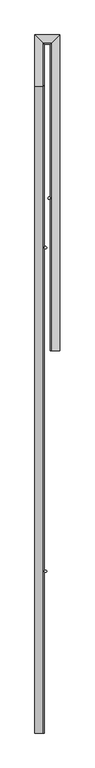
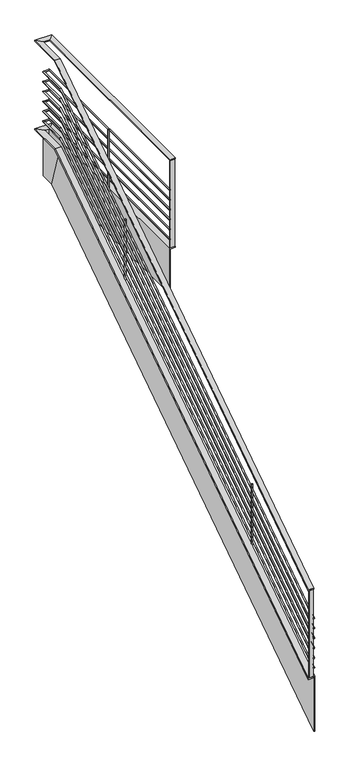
"""IFC4 building model written with IfcOpenShell, lengths in millimetres: railing geometry, Pletina y tubos pancha cubre forjado."""

import ifcopenshell
import ifcopenshell.guid

model = None  # the IFC model being written
_history = None  # IfcOwnerHistory: only IFC2X3 demands one
_inside = {}  # id of a spatial element -> (the spatial element, [elements in it])
_under = {}  # id of a project, library or spatial element -> (it, [spatial elements below it])
_declared = {}  # id of a project -> (the project, [libraries it declares])
_typed = {}  # id of a type object -> (the type object, [elements of that type])
_made_of = {}  # id of a material, layer set ... -> (it, [elements and type objects made of it])


def new_model(schema):
    """Start an empty IFC model of exactly this schema.

    Asked for "IFC4X3", IfcOpenShell would pick the latest addendum, in which some entities
    have other attributes; the version numbers below select the first issue.
    IFC2X3 requires an IfcOwnerHistory on every rooted entity: one is made here for all.
    """
    global model, _history
    if schema == "IFC4X3":
        model = ifcopenshell.file(schema_version=(4, 3, 0, 0))
    else:
        model = ifcopenshell.file(schema=schema)
    _inside.clear()
    _under.clear()
    _declared.clear()
    _typed.clear()
    _made_of.clear()
    _history = None
    if model.schema == "IFC2X3":
        org = make("IfcOrganization", Name="unknown")
        user = make(
            "IfcPersonAndOrganization",
            ThePerson=make("IfcPerson", FamilyName="unknown"),
            TheOrganization=org,
        )
        app = make(
            "IfcApplication",
            ApplicationDeveloper=org,
            Version="unknown",
            ApplicationFullName="unknown",
            ApplicationIdentifier="unknown",
        )
        _history = make(
            "IfcOwnerHistory",
            OwningUser=user,
            OwningApplication=app,
            ChangeAction="ADDED",
            CreationDate=0,
        )
    return model


def make(cls, **values):
    """One entity of the class cls with the attributes given. An attribute that is None is left unset."""
    return model.create_entity(
        cls, **{name: value for name, value in values.items() if value is not None}
    )


def rooted(cls, **values):
    """An entity with a GlobalId (a new one), such as an element, a storey or a relation."""
    return make(cls, GlobalId=ifcopenshell.guid.new(), OwnerHistory=_history, **values)


def si_unit(unit_type, name, prefix=None):
    """IfcSIUnit, for example si_unit("LENGTHUNIT", "METRE", prefix="MILLI")."""
    return make("IfcSIUnit", UnitType=unit_type, Prefix=prefix, Name=name)


def assignment(units):
    """IfcUnitAssignment: the units of a project."""
    return None if units is None else make("IfcUnitAssignment", Units=units)


def point(xyz):
    """IfcCartesianPoint."""
    return None if xyz is None else make("IfcCartesianPoint", Coordinates=xyz)


def direction(xyz):
    """IfcDirection."""
    return None if xyz is None else make("IfcDirection", DirectionRatios=xyz)


def frame(location, z_axis=None, x_axis=None):
    """IfcAxis2Placement3D, a coordinate frame: its origin and axes. An axis left out is left unset."""
    return make(
        "IfcAxis2Placement3D",
        Location=point(location),
        Axis=direction(z_axis),
        RefDirection=direction(x_axis),
    )


def frame_2d(location, x_axis=None):
    """IfcAxis2Placement2D, a coordinate frame in the plane: its origin and x axis."""
    return make(
        "IfcAxis2Placement2D", Location=point(location), RefDirection=direction(x_axis)
    )


def origin():
    """The frame at (0, 0, 0) with its axes left unset."""
    return frame((0.0, 0.0, 0.0))


def place(relative_to, where):
    """IfcLocalPlacement: puts the frame where relative to a parent placement (None: the world)."""
    return make(
        "IfcLocalPlacement", PlacementRelTo=relative_to, RelativePlacement=where
    )


def context(
    kind, dimensions, precision=None, world=None, true_north=None, identifier=None
):
    """IfcGeometricRepresentationContext, for example the 3D "Model" context."""
    return make(
        "IfcGeometricRepresentationContext",
        ContextIdentifier=identifier,
        ContextType=kind,
        CoordinateSpaceDimension=dimensions,
        Precision=precision,
        WorldCoordinateSystem=world,
        TrueNorth=true_north,
    )


def project(units=None, contexts=None):
    """IfcProject with its units and contexts."""
    return rooted(
        "IfcProject",
        Name="project",
        RepresentationContexts=contexts,
        UnitsInContext=assignment(units),
    )


def spatial(cls, under=None, at=None, **own):
    """A site, building, storey or space (cls), placed at a placement, below another one or the project."""
    s = rooted(cls, ObjectPlacement=at, **own)
    if under is not None:
        _under.setdefault(under.id(), (under, []))[1].append(s)
    return s


def polyline(points):
    """IfcPolyline through the points."""
    return make("IfcPolyline", Points=[point(p) for p in points])


def circle_curve(where, radius):
    """IfcCircle in the frame where."""
    return make("IfcCircle", Position=where, Radius=radius)


def ellipse_curve(where, semi_axis1, semi_axis2):
    """IfcEllipse in the frame where."""
    return make(
        "IfcEllipse", Position=where, SemiAxis1=semi_axis1, SemiAxis2=semi_axis2
    )


def trimmed(basis, trim1, trim2, sense, master):
    """IfcTrimmedCurve: the piece of a basis curve between two trims."""
    return make(
        "IfcTrimmedCurve",
        BasisCurve=basis,
        Trim1=trim1,
        Trim2=trim2,
        SenseAgreement=sense,
        MasterRepresentation=master,
    )


def segment(curve, same_sense, transition):
    """IfcCompositeCurveSegment."""
    return make(
        "IfcCompositeCurveSegment",
        Transition=transition,
        SameSense=same_sense,
        ParentCurve=curve,
    )


def composite_curve(segments, self_intersect=None):
    """IfcCompositeCurve: segments joined end to end."""
    return make("IfcCompositeCurve", Segments=segments, SelfIntersect=self_intersect)


def outline(outer, holes=None, kind="AREA"):
    """IfcArbitraryClosedProfileDef: a profile drawn as a closed curve; with holes, ...WithVoids."""
    if holes is None:
        return make("IfcArbitraryClosedProfileDef", ProfileType=kind, OuterCurve=outer)
    return make(
        "IfcArbitraryProfileDefWithVoids",
        ProfileType=kind,
        OuterCurve=outer,
        InnerCurves=holes,
    )


def extrude(swept, where, along, depth):
    """IfcExtrudedAreaSolid: the profile swept, set in the frame where, extruded along a direction by depth."""
    return make(
        "IfcExtrudedAreaSolid",
        SweptArea=swept,
        Position=where,
        ExtrudedDirection=direction(along),
        Depth=depth,
    )


def faces_of(points, faces, orient=None, outer=None):
    """IfcFace entities. A face is a list of loops; a loop is a list of indices into points, from 0.

    orient and outer hold one flag for each loop. By default every Orientation is true, the
    first loop of a face is its IfcFaceOuterBound and the others are IfcFaceBound.
    """
    made = []
    for i, loops in enumerate(faces):
        bounds = []
        for j, loop in enumerate(loops):
            is_outer = j == 0 if outer is None else outer[i][j]
            bounds.append(
                make(
                    "IfcFaceOuterBound" if is_outer else "IfcFaceBound",
                    Bound=make("IfcPolyLoop", Polygon=[points[k] for k in loop]),
                    Orientation=True if orient is None else orient[i][j],
                )
            )
        made.append(make("IfcFace", Bounds=bounds))
    return made


def faceted_brep(points, faces, orient=None, outer=None, voids=None):
    """IfcFacetedBrep: a solid bounded by flat faces; with voids (closed shells), ...WithVoids."""
    shared = [point(p) for p in points]
    hull = make("IfcClosedShell", CfsFaces=faces_of(shared, faces, orient, outer))
    if voids is None:
        return make("IfcFacetedBrep", Outer=hull)
    return make(
        "IfcFacetedBrepWithVoids",
        Outer=hull,
        Voids=[
            make(cls, CfsFaces=faces_of(shared, fs, o, b)) for cls, fs, o, b in voids
        ],
    )


def shape(context_of_items, identifier, shape_type, items):
    """IfcShapeRepresentation: the items that make up one representation, for example the "Body"."""
    return make(
        "IfcShapeRepresentation",
        ContextOfItems=context_of_items,
        RepresentationIdentifier=identifier,
        RepresentationType=shape_type,
        Items=items,
    )


def source(mapping_origin, context_of_items, identifier, shape_type, items):
    """IfcRepresentationMap: a shape defined once, which mapped items show again and again."""
    return make(
        "IfcRepresentationMap",
        MappingOrigin=mapping_origin,
        MappedRepresentation=shape(context_of_items, identifier, shape_type, items),
    )


def transform(
    local_origin,
    x_axis=None,
    y_axis=None,
    z_axis=None,
    scale=None,
    scale2=None,
    scale3=None,
    uniform=True,
):
    """IfcCartesianTransformationOperator3D, or its non-uniform kind. x_axis, y_axis, z_axis: its Axis1, 2, 3."""
    if uniform:
        return make(
            "IfcCartesianTransformationOperator3D",
            Axis1=direction(x_axis),
            Axis2=direction(y_axis),
            LocalOrigin=point(local_origin),
            Scale=scale,
            Axis3=direction(z_axis),
        )
    return make(
        "IfcCartesianTransformationOperator3DnonUniform",
        Axis1=direction(x_axis),
        Axis2=direction(y_axis),
        LocalOrigin=point(local_origin),
        Scale=scale,
        Axis3=direction(z_axis),
        Scale2=scale2,
        Scale3=scale3,
    )


def mapped(mapping_source, mapping_target):
    """IfcMappedItem: shows the shape of a source again, moved by a transform."""
    return make(
        "IfcMappedItem", MappingSource=mapping_source, MappingTarget=mapping_target
    )


def made_of(thing, what):
    """Note that an element or type object is made of a material, layer set ...; save() writes the relation."""
    if what is not None:
        _made_of.setdefault(what.id(), (what, []))[1].append(thing)
    return thing


def element(
    cls,
    number,
    at=None,
    inside=None,
    cuts=None,
    type_object=None,
    material=None,
    context=None,
    identifier="Body",
    shape_type=None,
    held_by="IfcProductDefinitionShape",
    body=None,
    shapes=None,
    **own,
):
    """One element of the class cls, such as IfcWall. Its Tag is "e" and its number.

    at: its placement. inside: the storey or other place that contains it. cuts: it is an
    opening in that element (IfcRelVoidsElement). A single representation is given by context,
    identifier, shape_type and body (its items); several are given by shapes. held_by: the class
    of the entity that holds the representations. save() writes the other relations.
    """
    e = rooted(cls, Tag="e%d" % number, ObjectPlacement=at, **own)
    if body is not None:
        shapes = [shape(context, identifier, shape_type, body)]
    if shapes is not None:
        e.Representation = make(held_by, Representations=shapes)
    if inside is not None:
        _inside.setdefault(inside.id(), (inside, []))[1].append(e)
    if cuts is not None:
        rooted(
            "IfcRelVoidsElement", RelatingBuildingElement=cuts, RelatedOpeningElement=e
        )
    if type_object is not None:
        _typed.setdefault(type_object.id(), (type_object, []))[1].append(e)
    return made_of(e, material)


def aggregate(whole, parts):
    """IfcRelAggregates: a whole, such as a stair, and the parts it consists of."""
    return rooted("IfcRelAggregates", RelatingObject=whole, RelatedObjects=parts)


def save(model, path):
    """Write the relations noted so far, then the file.

    IfcRelAggregates (storeys below a building ...), IfcRelContainedInSpatialStructure (elements
    in a storey), IfcRelDefinesByType, IfcRelAssociatesMaterial and IfcRelDeclares: one each for
    every whole, place, type object, material and project.
    """
    for whole, parts in _under.values():
        aggregate(whole, parts)
    for where, things in _inside.values():
        rooted(
            "IfcRelContainedInSpatialStructure",
            RelatedElements=things,
            RelatingStructure=where,
        )
    for kind, things in _typed.values():
        rooted("IfcRelDefinesByType", RelatedObjects=things, RelatingType=kind)
    for what, things in _made_of.values():
        rooted("IfcRelAssociatesMaterial", RelatedObjects=things, RelatingMaterial=what)
    for by, libraries in _declared.values():
        rooted("IfcRelDeclares", RelatingContext=by, RelatedDefinitions=libraries)
    model.write(path)


def plane_surface(at):
    """IfcPlane: the flat surface through the origin of the frame at, square to its z axis."""
    return make("IfcPlane", Position=at)


def cylinder_surface(at, radius):
    """IfcCylindricalSurface: all points at the distance radius from the z axis of the frame at."""
    return make("IfcCylindricalSurface", Position=at, Radius=radius)


def advanced_brep(points, edges, surfaces, faces):
    """IfcAdvancedBrep: a solid bounded by faces that lie on surfaces and meet in shared edges.

    An edge is (start, end): straight between two places in points (the first is 0);
    or (start, end, curve); or (start, end, curve, False) where it runs against its curve.
    A face is (place in surfaces, loops), or (place, loops, False) where it looks against
    its surface's normal. A loop lists edges by number (the first is 1), with a minus sign
    where the edge is run from its end to its start. The first loop is the outer one.
    """
    corners = [point(p) for p in points]
    vertices = [make("IfcVertexPoint", VertexGeometry=c) for c in corners]
    made = []
    for start, end, *more in edges:
        made.append(
            make(
                "IfcEdgeCurve",
                EdgeStart=vertices[start],
                EdgeEnd=vertices[end],
                EdgeGeometry=more[0] if more else make("IfcPolyline", Points=[corners[start], corners[end]]),
                SameSense=more[1] if len(more) > 1 else True,
            )
        )
    hull = []
    for where, loops, *sense in faces:
        bounds = []
        for j, loop in enumerate(loops):
            ring = [make("IfcOrientedEdge", EdgeElement=made[abs(k) - 1], Orientation=k > 0) for k in loop]
            bounds.append(
                make(
                    "IfcFaceOuterBound" if j == 0 else "IfcFaceBound",
                    Bound=make("IfcEdgeLoop", EdgeList=ring),
                    Orientation=True,
                )
            )
        hull.append(make("IfcAdvancedFace", Bounds=bounds, FaceSurface=surfaces[where], SameSense=sense[0] if sense else True))
    return make("IfcAdvancedBrep", Outer=make("IfcClosedShell", CfsFaces=hull))


def railing_91c5b084(model_context):
    return source(origin(), model_context, "Body", "SolidModel", [
        faceted_brep([(1871.2012558, -7482.6669037, 287.5), (1871.2012558, -7482.6669037, -254.0767398), (1881.2012558, -7482.6669037, -254.0767398), (1881.2012558, -7482.6669037, 299.5350387), (1821.2012558, -7482.6669037, 299.5350387), (1821.2012558, -7482.6669037, 287.5), (1871.2012558, -3282.6669037, 3100.0), (1871.2012558, -3145.9123056, 2650.0), (1881.2012558, -3145.9123056, 2650.0), (1881.2012558, -3285.7058948, 3110.0), (1821.2012558, -3285.7058948, 3110.0), (1821.2012558, -3282.6669037, 3100.0), (1871.2012558, -3002.2669037, 3100.0), (1871.2012558, -3002.2669037, 2650.0), (1881.2012558, -3012.2669037, 2650.0), (1881.2012558, -3012.2669037, 3110.0), (1821.2012558, -2952.2669037, 3110.0), (1821.2012558, -2952.2669037, 3100.0), (1932.0012558, -3002.2669037, 3100.0), (1932.0012558, -3002.2669037, 2650.0), (1922.0012558, -3012.2669037, 2650.0), (1922.0012558, -3012.2669037, 3110.0), (1982.0012558, -2952.2669037, 3110.0), (1982.0012558, -2952.2669037, 3100.0), (1932.0012558, -5002.6669037, 3100.0), (1982.0012558, -5002.6669037, 3100.0), (1982.0012558, -5002.6669037, 3110.0), (1922.0012558, -5002.6669037, 3110.0), (1922.0012558, -5002.6669037, 2650.0), (1932.0012558, -5002.6669037, 2650.0)], [[[0, 1, 2, 3, 4, 5]], [[1, 0, 6, 7]], [[2, 1, 7, 8]], [[3, 2, 8, 9]], [[4, 3, 9, 10]], [[5, 4, 10, 11]], [[0, 5, 11, 6]], [[7, 6, 12, 13]], [[8, 7, 13, 14]], [[9, 8, 14, 15]], [[10, 9, 15, 16]], [[11, 10, 16, 17]], [[6, 11, 17, 12]], [[13, 12, 18, 19]], [[14, 13, 19, 20]], [[15, 14, 20, 21]], [[16, 15, 21, 22]], [[17, 16, 22, 23]], [[12, 17, 23, 18]], [[24, 25, 26, 27, 28, 29]], [[19, 18, 24, 29]], [[20, 19, 29, 28]], [[21, 20, 28, 27]], [[22, 21, 27, 26]], [[23, 22, 26, 25]], [[18, 23, 25, 24]]]),
        advanced_brep(
        [(1869.2012558, -7482.6669037, 387.5), (1881.2012558, -7482.6669037, 387.5), (1869.2012558, -3282.6669037, 3200.0), (1881.2012558, -3282.6669037, 3200.0), (1869.2012558, -3000.2669037, 3200.0), (1881.2012558, -3012.2669037, 3200.0), (1934.0012558, -3000.2669037, 3200.0), (1922.0012558, -3012.2669037, 3200.0), (1934.0012558, -5002.6669037, 3200.0), (1922.0012558, -5002.6669037, 3200.0)],
        [
            (0, 1, ellipse_curve(frame((1875.2012558, -7482.6669037, 387.5), z_axis=(0.0, -1.0, 0.0), x_axis=(0.0, 0.0, -1.0)), 7.2210232, 6.0)),
            (1, 0, ellipse_curve(frame((1875.2012558, -7482.6669037, 387.5), z_axis=(0.0, -1.0, 0.0), x_axis=(0.0, 0.0, -1.0)), 7.2210232, 6.0)),
            (0, 2),
            (2, 3, ellipse_curve(frame((1875.2012558, -3282.6669037, 3200.0), z_axis=(0.0, -0.9567933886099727, -0.29076865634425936), x_axis=(0.0, 0.2907686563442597, -0.9567933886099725)), 6.2709463, 6.0)),
            (3, 1),
            (3, 2, ellipse_curve(frame((1875.2012558, -3282.6669037, 3200.0), z_axis=(0.0, -0.9567933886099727, -0.29076865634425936), x_axis=(0.0, 0.2907686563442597, -0.9567933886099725)), 6.2709463, 6.0)),
            (2, 4),
            (4, 5, ellipse_curve(frame((1875.2012558, -3006.2669037, 3200.0), z_axis=(-0.707106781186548, -0.7071067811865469, 0.0), x_axis=(0.7071067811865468, -0.7071067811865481, 0.0)), 8.4852814, 6.0)),
            (5, 3),
            (5, 4, ellipse_curve(frame((1875.2012558, -3006.2669037, 3200.0), z_axis=(-0.707106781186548, -0.7071067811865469, 0.0), x_axis=(0.7071067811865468, -0.7071067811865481, 0.0)), 8.4852814, 6.0)),
            (4, 6),
            (6, 7, ellipse_curve(frame((1928.0012558, -3006.2669037, 3200.0), z_axis=(-0.7071067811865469, 0.7071067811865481, 0.0), x_axis=(-0.7071067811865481, -0.7071067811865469, 0.0)), 8.4852814, 6.0)),
            (7, 5),
            (7, 6, ellipse_curve(frame((1928.0012558, -3006.2669037, 3200.0), z_axis=(-0.7071067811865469, 0.7071067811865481, 0.0), x_axis=(-0.7071067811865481, -0.7071067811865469, 0.0)), 8.4852814, 6.0)),
            (8, 9, circle_curve(frame((1928.0012558, -5002.6669037, 3200.0), z_axis=(0.0, -1.0, 0.0), x_axis=(-1.0, 0.0, 0.0)), 6.0)),
            (9, 8, circle_curve(frame((1928.0012558, -5002.6669037, 3200.0), z_axis=(0.0, -1.0, 0.0), x_axis=(-1.0, 0.0, 0.0)), 6.0)),
            (6, 8),
            (9, 7),
        ],
        [
            plane_surface(frame((1875.2012558, -7482.6669037, 387.5), z_axis=(0.0, -1.0, 0.0), x_axis=(0.0, 0.0, 1.0))),
            cylinder_surface(frame((1875.2012558, -7482.6669037, 387.5), z_axis=(0.0, -0.8309071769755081, -0.556411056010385), x_axis=(1.0, 0.0, 0.0)), 6.0),
            cylinder_surface(frame((1875.2012558, -3282.6669037, 3200.0), z_axis=(0.0, -1.0, 0.0), x_axis=(1.0, 0.0, 0.0)), 6.0),
            cylinder_surface(frame((1875.2012558, -3006.2669037, 3200.0), z_axis=(-1.0, 0.0, 0.0), x_axis=(0.0, -1.0, 0.0)), 6.0),
            plane_surface(frame((1928.0012558, -5002.6669037, 3200.0), z_axis=(0.0, -1.0, 0.0), x_axis=(0.0, 0.0, -1.0))),
            cylinder_surface(frame((1928.0012558, -3006.2669037, 3200.0), z_axis=(0.0, 1.0, 0.0), x_axis=(-1.0, 0.0, 0.0)), 6.0),
        ],
        [
            (0, [[1, 2]]),
            (1, [[-1, 3, 4, 5]]),
            (1, [[-2, -5, 6, -3]]),
            (2, [[-4, 7, 8, 9]]),
            (2, [[-6, -9, 10, -7]]),
            (3, [[-8, 11, 12, 13]]),
            (3, [[-10, -13, 14, -11]]),
            (4, [[15, 16]]),
            (5, [[-12, 17, -16, 18]]),
            (5, [[-14, -18, -15, -17]]),
        ],
    ),
        advanced_brep(
        [(1869.2012558, -7482.6669037, 487.5), (1881.2012558, -7482.6669037, 487.5), (1869.2012558, -3282.6669037, 3300.0), (1881.2012558, -3282.6669037, 3300.0), (1869.2012558, -3000.2669037, 3300.0), (1881.2012558, -3012.2669037, 3300.0), (1934.0012558, -3000.2669037, 3300.0), (1922.0012558, -3012.2669037, 3300.0), (1934.0012558, -5002.6669037, 3300.0), (1922.0012558, -5002.6669037, 3300.0)],
        [
            (0, 1, ellipse_curve(frame((1875.2012558, -7482.6669037, 487.5), z_axis=(0.0, -1.0, 0.0), x_axis=(0.0, 0.0, -1.0)), 7.2210232, 6.0)),
            (1, 0, ellipse_curve(frame((1875.2012558, -7482.6669037, 487.5), z_axis=(0.0, -1.0, 0.0), x_axis=(0.0, 0.0, -1.0)), 7.2210232, 6.0)),
            (0, 2),
            (2, 3, ellipse_curve(frame((1875.2012558, -3282.6669037, 3300.0), z_axis=(0.0, -0.9567933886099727, -0.29076865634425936), x_axis=(0.0, 0.2907686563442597, -0.9567933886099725)), 6.2709463, 6.0)),
            (3, 1),
            (3, 2, ellipse_curve(frame((1875.2012558, -3282.6669037, 3300.0), z_axis=(0.0, -0.9567933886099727, -0.29076865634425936), x_axis=(0.0, 0.2907686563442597, -0.9567933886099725)), 6.2709463, 6.0)),
            (2, 4),
            (4, 5, ellipse_curve(frame((1875.2012558, -3006.2669037, 3300.0), z_axis=(-0.707106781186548, -0.7071067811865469, 0.0), x_axis=(0.7071067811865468, -0.7071067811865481, 0.0)), 8.4852814, 6.0)),
            (5, 3),
            (5, 4, ellipse_curve(frame((1875.2012558, -3006.2669037, 3300.0), z_axis=(-0.707106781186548, -0.7071067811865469, 0.0), x_axis=(0.7071067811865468, -0.7071067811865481, 0.0)), 8.4852814, 6.0)),
            (4, 6),
            (6, 7, ellipse_curve(frame((1928.0012558, -3006.2669037, 3300.0), z_axis=(-0.7071067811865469, 0.7071067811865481, 0.0), x_axis=(-0.7071067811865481, -0.7071067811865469, 0.0)), 8.4852814, 6.0)),
            (7, 5),
            (7, 6, ellipse_curve(frame((1928.0012558, -3006.2669037, 3300.0), z_axis=(-0.7071067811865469, 0.7071067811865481, 0.0), x_axis=(-0.7071067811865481, -0.7071067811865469, 0.0)), 8.4852814, 6.0)),
            (8, 9, circle_curve(frame((1928.0012558, -5002.6669037, 3300.0), z_axis=(0.0, -1.0, 0.0), x_axis=(-1.0, 0.0, 0.0)), 6.0)),
            (9, 8, circle_curve(frame((1928.0012558, -5002.6669037, 3300.0), z_axis=(0.0, -1.0, 0.0), x_axis=(-1.0, 0.0, 0.0)), 6.0)),
            (6, 8),
            (9, 7),
        ],
        [
            plane_surface(frame((1875.2012558, -7482.6669037, 487.5), z_axis=(0.0, -1.0, 0.0), x_axis=(0.0, 0.0, 1.0))),
            cylinder_surface(frame((1875.2012558, -7482.6669037, 487.5), z_axis=(0.0, -0.8309071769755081, -0.556411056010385), x_axis=(1.0, 0.0, 0.0)), 6.0),
            cylinder_surface(frame((1875.2012558, -3282.6669037, 3300.0), z_axis=(0.0, -1.0, 0.0), x_axis=(1.0, 0.0, 0.0)), 6.0),
            cylinder_surface(frame((1875.2012558, -3006.2669037, 3300.0), z_axis=(-1.0, 0.0, 0.0), x_axis=(0.0, -1.0, 0.0)), 6.0),
            plane_surface(frame((1928.0012558, -5002.6669037, 3300.0), z_axis=(0.0, -1.0, 0.0), x_axis=(0.0, 0.0, -1.0))),
            cylinder_surface(frame((1928.0012558, -3006.2669037, 3300.0), z_axis=(0.0, 1.0, 0.0), x_axis=(-1.0, 0.0, 0.0)), 6.0),
        ],
        [
            (0, [[1, 2]]),
            (1, [[-1, 3, 4, 5]]),
            (1, [[-2, -5, 6, -3]]),
            (2, [[-4, 7, 8, 9]]),
            (2, [[-6, -9, 10, -7]]),
            (3, [[-8, 11, 12, 13]]),
            (3, [[-10, -13, 14, -11]]),
            (4, [[15, 16]]),
            (5, [[-12, 17, -16, 18]]),
            (5, [[-14, -18, -15, -17]]),
        ],
    ),
        advanced_brep(
        [(1869.2012558, -7482.6669037, 587.5), (1881.2012558, -7482.6669037, 587.5), (1869.2012558, -3282.6669037, 3400.0), (1881.2012558, -3282.6669037, 3400.0), (1869.2012558, -3000.2669037, 3400.0), (1881.2012558, -3012.2669037, 3400.0), (1934.0012558, -3000.2669037, 3400.0), (1922.0012558, -3012.2669037, 3400.0), (1934.0012558, -5002.6669037, 3400.0), (1922.0012558, -5002.6669037, 3400.0)],
        [
            (0, 1, ellipse_curve(frame((1875.2012558, -7482.6669037, 587.5), z_axis=(0.0, -1.0, 0.0), x_axis=(0.0, 0.0, -1.0)), 7.2210232, 6.0)),
            (1, 0, ellipse_curve(frame((1875.2012558, -7482.6669037, 587.5), z_axis=(0.0, -1.0, 0.0), x_axis=(0.0, 0.0, -1.0)), 7.2210232, 6.0)),
            (0, 2),
            (2, 3, ellipse_curve(frame((1875.2012558, -3282.6669037, 3400.0), z_axis=(0.0, -0.9567933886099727, -0.29076865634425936), x_axis=(0.0, 0.2907686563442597, -0.9567933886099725)), 6.2709463, 6.0)),
            (3, 1),
            (3, 2, ellipse_curve(frame((1875.2012558, -3282.6669037, 3400.0), z_axis=(0.0, -0.9567933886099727, -0.29076865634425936), x_axis=(0.0, 0.2907686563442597, -0.9567933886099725)), 6.2709463, 6.0)),
            (2, 4),
            (4, 5, ellipse_curve(frame((1875.2012558, -3006.2669037, 3400.0), z_axis=(-0.707106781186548, -0.7071067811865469, 0.0), x_axis=(0.7071067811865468, -0.7071067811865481, 0.0)), 8.4852814, 6.0)),
            (5, 3),
            (5, 4, ellipse_curve(frame((1875.2012558, -3006.2669037, 3400.0), z_axis=(-0.707106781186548, -0.7071067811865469, 0.0), x_axis=(0.7071067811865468, -0.7071067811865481, 0.0)), 8.4852814, 6.0)),
            (4, 6),
            (6, 7, ellipse_curve(frame((1928.0012558, -3006.2669037, 3400.0), z_axis=(-0.7071067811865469, 0.7071067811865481, 0.0), x_axis=(-0.7071067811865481, -0.7071067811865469, 0.0)), 8.4852814, 6.0)),
            (7, 5),
            (7, 6, ellipse_curve(frame((1928.0012558, -3006.2669037, 3400.0), z_axis=(-0.7071067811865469, 0.7071067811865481, 0.0), x_axis=(-0.7071067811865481, -0.7071067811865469, 0.0)), 8.4852814, 6.0)),
            (8, 9, circle_curve(frame((1928.0012558, -5002.6669037, 3400.0), z_axis=(0.0, -1.0, 0.0), x_axis=(-1.0, 0.0, 0.0)), 6.0)),
            (9, 8, circle_curve(frame((1928.0012558, -5002.6669037, 3400.0), z_axis=(0.0, -1.0, 0.0), x_axis=(-1.0, 0.0, 0.0)), 6.0)),
            (6, 8),
            (9, 7),
        ],
        [
            plane_surface(frame((1875.2012558, -7482.6669037, 587.5), z_axis=(0.0, -1.0, 0.0), x_axis=(0.0, 0.0, 1.0))),
            cylinder_surface(frame((1875.2012558, -7482.6669037, 587.5), z_axis=(0.0, -0.8309071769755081, -0.556411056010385), x_axis=(1.0, 0.0, 0.0)), 6.0),
            cylinder_surface(frame((1875.2012558, -3282.6669037, 3400.0), z_axis=(0.0, -1.0, 0.0), x_axis=(1.0, 0.0, 0.0)), 6.0),
            cylinder_surface(frame((1875.2012558, -3006.2669037, 3400.0), z_axis=(-1.0, 0.0, 0.0), x_axis=(0.0, -1.0, 0.0)), 6.0),
            plane_surface(frame((1928.0012558, -5002.6669037, 3400.0), z_axis=(0.0, -1.0, 0.0), x_axis=(0.0, 0.0, -1.0))),
            cylinder_surface(frame((1928.0012558, -3006.2669037, 3400.0), z_axis=(0.0, 1.0, 0.0), x_axis=(-1.0, 0.0, 0.0)), 6.0),
        ],
        [
            (0, [[1, 2]]),
            (1, [[-1, 3, 4, 5]]),
            (1, [[-2, -5, 6, -3]]),
            (2, [[-4, 7, 8, 9]]),
            (2, [[-6, -9, 10, -7]]),
            (3, [[-8, 11, 12, 13]]),
            (3, [[-10, -13, 14, -11]]),
            (4, [[15, 16]]),
            (5, [[-12, 17, -16, 18]]),
            (5, [[-14, -18, -15, -17]]),
        ],
    ),
        advanced_brep(
        [(1869.2012558, -7482.6669037, 687.5), (1881.2012558, -7482.6669037, 687.5), (1869.2012558, -3282.6669037, 3500.0), (1881.2012558, -3282.6669037, 3500.0), (1869.2012558, -3000.2669037, 3500.0), (1881.2012558, -3012.2669037, 3500.0), (1934.0012558, -3000.2669037, 3500.0), (1922.0012558, -3012.2669037, 3500.0), (1934.0012558, -5002.6669037, 3500.0), (1922.0012558, -5002.6669037, 3500.0)],
        [
            (0, 1, ellipse_curve(frame((1875.2012558, -7482.6669037, 687.5), z_axis=(0.0, -1.0, 0.0), x_axis=(0.0, 0.0, -1.0)), 7.2210232, 6.0)),
            (1, 0, ellipse_curve(frame((1875.2012558, -7482.6669037, 687.5), z_axis=(0.0, -1.0, 0.0), x_axis=(0.0, 0.0, -1.0)), 7.2210232, 6.0)),
            (0, 2),
            (2, 3, ellipse_curve(frame((1875.2012558, -3282.6669037, 3500.0), z_axis=(0.0, -0.9567933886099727, -0.29076865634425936), x_axis=(0.0, 0.2907686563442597, -0.9567933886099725)), 6.2709463, 6.0)),
            (3, 1),
            (3, 2, ellipse_curve(frame((1875.2012558, -3282.6669037, 3500.0), z_axis=(0.0, -0.9567933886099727, -0.29076865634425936), x_axis=(0.0, 0.2907686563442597, -0.9567933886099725)), 6.2709463, 6.0)),
            (2, 4),
            (4, 5, ellipse_curve(frame((1875.2012558, -3006.2669037, 3500.0), z_axis=(-0.707106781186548, -0.7071067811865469, 0.0), x_axis=(0.7071067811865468, -0.7071067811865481, 0.0)), 8.4852814, 6.0)),
            (5, 3),
            (5, 4, ellipse_curve(frame((1875.2012558, -3006.2669037, 3500.0), z_axis=(-0.707106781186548, -0.7071067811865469, 0.0), x_axis=(0.7071067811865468, -0.7071067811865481, 0.0)), 8.4852814, 6.0)),
            (4, 6),
            (6, 7, ellipse_curve(frame((1928.0012558, -3006.2669037, 3500.0), z_axis=(-0.7071067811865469, 0.7071067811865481, 0.0), x_axis=(-0.7071067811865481, -0.7071067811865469, 0.0)), 8.4852814, 6.0)),
            (7, 5),
            (7, 6, ellipse_curve(frame((1928.0012558, -3006.2669037, 3500.0), z_axis=(-0.7071067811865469, 0.7071067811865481, 0.0), x_axis=(-0.7071067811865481, -0.7071067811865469, 0.0)), 8.4852814, 6.0)),
            (8, 9, circle_curve(frame((1928.0012558, -5002.6669037, 3500.0), z_axis=(0.0, -1.0, 0.0), x_axis=(-1.0, 0.0, 0.0)), 6.0)),
            (9, 8, circle_curve(frame((1928.0012558, -5002.6669037, 3500.0), z_axis=(0.0, -1.0, 0.0), x_axis=(-1.0, 0.0, 0.0)), 6.0)),
            (6, 8),
            (9, 7),
        ],
        [
            plane_surface(frame((1875.2012558, -7482.6669037, 687.5), z_axis=(0.0, -1.0, 0.0), x_axis=(0.0, 0.0, 1.0))),
            cylinder_surface(frame((1875.2012558, -7482.6669037, 687.5), z_axis=(0.0, -0.8309071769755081, -0.556411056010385), x_axis=(1.0, 0.0, 0.0)), 6.0),
            cylinder_surface(frame((1875.2012558, -3282.6669037, 3500.0), z_axis=(0.0, -1.0, 0.0), x_axis=(1.0, 0.0, 0.0)), 6.0),
            cylinder_surface(frame((1875.2012558, -3006.2669037, 3500.0), z_axis=(-1.0, 0.0, 0.0), x_axis=(0.0, -1.0, 0.0)), 6.0),
            plane_surface(frame((1928.0012558, -5002.6669037, 3500.0), z_axis=(0.0, -1.0, 0.0), x_axis=(0.0, 0.0, -1.0))),
            cylinder_surface(frame((1928.0012558, -3006.2669037, 3500.0), z_axis=(0.0, 1.0, 0.0), x_axis=(-1.0, 0.0, 0.0)), 6.0),
        ],
        [
            (0, [[1, 2]]),
            (1, [[-1, 3, 4, 5]]),
            (1, [[-2, -5, 6, -3]]),
            (2, [[-4, 7, 8, 9]]),
            (2, [[-6, -9, 10, -7]]),
            (3, [[-8, 11, 12, 13]]),
            (3, [[-10, -13, 14, -11]]),
            (4, [[15, 16]]),
            (5, [[-12, 17, -16, 18]]),
            (5, [[-14, -18, -15, -17]]),
        ],
    ),
        advanced_brep(
        [(1869.2012558, -7482.6669037, 787.5), (1881.2012558, -7482.6669037, 787.5), (1869.2012558, -3282.6669037, 3600.0), (1881.2012558, -3282.6669037, 3600.0), (1869.2012558, -3000.2669037, 3600.0), (1881.2012558, -3012.2669037, 3600.0), (1934.0012558, -3000.2669037, 3600.0), (1922.0012558, -3012.2669037, 3600.0), (1934.0012558, -5002.6669037, 3600.0), (1922.0012558, -5002.6669037, 3600.0)],
        [
            (0, 1, ellipse_curve(frame((1875.2012558, -7482.6669037, 787.5), z_axis=(0.0, -1.0, 0.0), x_axis=(0.0, 0.0, -1.0)), 7.2210232, 6.0)),
            (1, 0, ellipse_curve(frame((1875.2012558, -7482.6669037, 787.5), z_axis=(0.0, -1.0, 0.0), x_axis=(0.0, 0.0, -1.0)), 7.2210232, 6.0)),
            (0, 2),
            (2, 3, ellipse_curve(frame((1875.2012558, -3282.6669037, 3600.0), z_axis=(0.0, -0.9567933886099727, -0.29076865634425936), x_axis=(0.0, 0.2907686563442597, -0.9567933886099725)), 6.2709463, 6.0)),
            (3, 1),
            (3, 2, ellipse_curve(frame((1875.2012558, -3282.6669037, 3600.0), z_axis=(0.0, -0.9567933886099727, -0.29076865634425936), x_axis=(0.0, 0.2907686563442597, -0.9567933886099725)), 6.2709463, 6.0)),
            (2, 4),
            (4, 5, ellipse_curve(frame((1875.2012558, -3006.2669037, 3600.0), z_axis=(-0.707106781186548, -0.7071067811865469, 0.0), x_axis=(0.7071067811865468, -0.7071067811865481, 0.0)), 8.4852814, 6.0)),
            (5, 3),
            (5, 4, ellipse_curve(frame((1875.2012558, -3006.2669037, 3600.0), z_axis=(-0.707106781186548, -0.7071067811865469, 0.0), x_axis=(0.7071067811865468, -0.7071067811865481, 0.0)), 8.4852814, 6.0)),
            (4, 6),
            (6, 7, ellipse_curve(frame((1928.0012558, -3006.2669037, 3600.0), z_axis=(-0.7071067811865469, 0.7071067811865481, 0.0), x_axis=(-0.7071067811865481, -0.7071067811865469, 0.0)), 8.4852814, 6.0)),
            (7, 5),
            (7, 6, ellipse_curve(frame((1928.0012558, -3006.2669037, 3600.0), z_axis=(-0.7071067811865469, 0.7071067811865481, 0.0), x_axis=(-0.7071067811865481, -0.7071067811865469, 0.0)), 8.4852814, 6.0)),
            (8, 9, circle_curve(frame((1928.0012558, -5002.6669037, 3600.0), z_axis=(0.0, -1.0, 0.0), x_axis=(-1.0, 0.0, 0.0)), 6.0)),
            (9, 8, circle_curve(frame((1928.0012558, -5002.6669037, 3600.0), z_axis=(0.0, -1.0, 0.0), x_axis=(-1.0, 0.0, 0.0)), 6.0)),
            (6, 8),
            (9, 7),
        ],
        [
            plane_surface(frame((1875.2012558, -7482.6669037, 787.5), z_axis=(0.0, -1.0, 0.0), x_axis=(0.0, 0.0, 1.0))),
            cylinder_surface(frame((1875.2012558, -7482.6669037, 787.5), z_axis=(0.0, -0.8309071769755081, -0.556411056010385), x_axis=(1.0, 0.0, 0.0)), 6.0),
            cylinder_surface(frame((1875.2012558, -3282.6669037, 3600.0), z_axis=(0.0, -1.0, 0.0), x_axis=(1.0, 0.0, 0.0)), 6.0),
            cylinder_surface(frame((1875.2012558, -3006.2669037, 3600.0), z_axis=(-1.0, 0.0, 0.0), x_axis=(0.0, -1.0, 0.0)), 6.0),
            plane_surface(frame((1928.0012558, -5002.6669037, 3600.0), z_axis=(0.0, -1.0, 0.0), x_axis=(0.0, 0.0, -1.0))),
            cylinder_surface(frame((1928.0012558, -3006.2669037, 3600.0), z_axis=(0.0, 1.0, 0.0), x_axis=(-1.0, 0.0, 0.0)), 6.0),
        ],
        [
            (0, [[1, 2]]),
            (1, [[-1, 3, 4, 5]]),
            (1, [[-2, -5, 6, -3]]),
            (2, [[-4, 7, 8, 9]]),
            (2, [[-6, -9, 10, -7]]),
            (3, [[-8, 11, 12, 13]]),
            (3, [[-10, -13, 14, -11]]),
            (4, [[15, 16]]),
            (5, [[-12, 17, -16, 18]]),
            (5, [[-14, -18, -15, -17]]),
        ],
    ),
        advanced_brep(
        [(1869.2012558, -7482.6669037, 887.5), (1881.2012558, -7482.6669037, 887.5), (1869.2012558, -3282.6669037, 3700.0), (1881.2012558, -3282.6669037, 3700.0), (1869.2012558, -3000.2669037, 3700.0), (1881.2012558, -3012.2669037, 3700.0), (1934.0012558, -3000.2669037, 3700.0), (1922.0012558, -3012.2669037, 3700.0), (1934.0012558, -5002.6669037, 3700.0), (1922.0012558, -5002.6669037, 3700.0)],
        [
            (0, 1, ellipse_curve(frame((1875.2012558, -7482.6669037, 887.5), z_axis=(0.0, -1.0, 0.0), x_axis=(0.0, 0.0, -1.0)), 7.2210232, 6.0)),
            (1, 0, ellipse_curve(frame((1875.2012558, -7482.6669037, 887.5), z_axis=(0.0, -1.0, 0.0), x_axis=(0.0, 0.0, -1.0)), 7.2210232, 6.0)),
            (0, 2),
            (2, 3, ellipse_curve(frame((1875.2012558, -3282.6669037, 3700.0), z_axis=(0.0, -0.9567933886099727, -0.29076865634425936), x_axis=(0.0, 0.2907686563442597, -0.9567933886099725)), 6.2709463, 6.0)),
            (3, 1),
            (3, 2, ellipse_curve(frame((1875.2012558, -3282.6669037, 3700.0), z_axis=(0.0, -0.9567933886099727, -0.29076865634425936), x_axis=(0.0, 0.2907686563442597, -0.9567933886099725)), 6.2709463, 6.0)),
            (2, 4),
            (4, 5, ellipse_curve(frame((1875.2012558, -3006.2669037, 3700.0), z_axis=(-0.707106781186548, -0.7071067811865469, 0.0), x_axis=(0.7071067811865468, -0.7071067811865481, 0.0)), 8.4852814, 6.0)),
            (5, 3),
            (5, 4, ellipse_curve(frame((1875.2012558, -3006.2669037, 3700.0), z_axis=(-0.707106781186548, -0.7071067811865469, 0.0), x_axis=(0.7071067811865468, -0.7071067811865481, 0.0)), 8.4852814, 6.0)),
            (4, 6),
            (6, 7, ellipse_curve(frame((1928.0012558, -3006.2669037, 3700.0), z_axis=(-0.7071067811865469, 0.7071067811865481, 0.0), x_axis=(-0.7071067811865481, -0.7071067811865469, 0.0)), 8.4852814, 6.0)),
            (7, 5),
            (7, 6, ellipse_curve(frame((1928.0012558, -3006.2669037, 3700.0), z_axis=(-0.7071067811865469, 0.7071067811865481, 0.0), x_axis=(-0.7071067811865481, -0.7071067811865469, 0.0)), 8.4852814, 6.0)),
            (8, 9, circle_curve(frame((1928.0012558, -5002.6669037, 3700.0), z_axis=(0.0, -1.0, 0.0), x_axis=(-1.0, 0.0, 0.0)), 6.0)),
            (9, 8, circle_curve(frame((1928.0012558, -5002.6669037, 3700.0), z_axis=(0.0, -1.0, 0.0), x_axis=(-1.0, 0.0, 0.0)), 6.0)),
            (6, 8),
            (9, 7),
        ],
        [
            plane_surface(frame((1875.2012558, -7482.6669037, 887.5), z_axis=(0.0, -1.0, 0.0), x_axis=(0.0, 0.0, 1.0))),
            cylinder_surface(frame((1875.2012558, -7482.6669037, 887.5), z_axis=(0.0, -0.8309071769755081, -0.556411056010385), x_axis=(1.0, 0.0, 0.0)), 6.0),
            cylinder_surface(frame((1875.2012558, -3282.6669037, 3700.0), z_axis=(0.0, -1.0, 0.0), x_axis=(1.0, 0.0, 0.0)), 6.0),
            cylinder_surface(frame((1875.2012558, -3006.2669037, 3700.0), z_axis=(-1.0, 0.0, 0.0), x_axis=(0.0, -1.0, 0.0)), 6.0),
            plane_surface(frame((1928.0012558, -5002.6669037, 3700.0), z_axis=(0.0, -1.0, 0.0), x_axis=(0.0, 0.0, -1.0))),
            cylinder_surface(frame((1928.0012558, -3006.2669037, 3700.0), z_axis=(0.0, 1.0, 0.0), x_axis=(-1.0, 0.0, 0.0)), 6.0),
        ],
        [
            (0, [[1, 2]]),
            (1, [[-1, 3, 4, 5]]),
            (1, [[-2, -5, 6, -3]]),
            (2, [[-4, 7, 8, 9]]),
            (2, [[-6, -9, 10, -7]]),
            (3, [[-8, 11, 12, 13]]),
            (3, [[-10, -13, 14, -11]]),
            (4, [[15, 16]]),
            (5, [[-12, 17, -16, 18]]),
            (5, [[-14, -18, -15, -17]]),
        ],
    ),
        faceted_brep([(1871.2012558, -7482.6669037, 1193.5175193), (1821.2012558, -7482.6669037, 1193.5175193), (1821.2012558, -7482.6669037, 1181.4824807), (1871.2012558, -7482.6669037, 1181.4824807), (1871.2012558, -3284.1863992, 4005.0), (1821.2012558, -3284.1863992, 4005.0), (1821.2012558, -3281.1474082, 3995.0), (1871.2012558, -3281.1474082, 3995.0), (1871.2012558, -3002.2669037, 4005.0), (1821.2012558, -2952.2669037, 4005.0), (1821.2012558, -2952.2669037, 3995.0), (1871.2012558, -3002.2669037, 3995.0), (1932.0012558, -3002.2669037, 4005.0), (1982.0012558, -2952.2669037, 4005.0), (1982.0012558, -2952.2669037, 3995.0), (1932.0012558, -3002.2669037, 3995.0), (1932.0012558, -5002.6669037, 4005.0), (1932.0012558, -5002.6669037, 3995.0), (1982.0012558, -5002.6669037, 3995.0), (1982.0012558, -5002.6669037, 4005.0)], [[[0, 1, 2, 3]], [[1, 0, 4, 5]], [[2, 1, 5, 6]], [[3, 2, 6, 7]], [[0, 3, 7, 4]], [[5, 4, 8, 9]], [[6, 5, 9, 10]], [[7, 6, 10, 11]], [[4, 7, 11, 8]], [[9, 8, 12, 13]], [[10, 9, 13, 14]], [[11, 10, 14, 15]], [[8, 11, 15, 12]], [[16, 17, 18, 19]], [[13, 12, 16, 19]], [[14, 13, 19, 18]], [[15, 14, 18, 17]], [[12, 15, 17, 16]]]),
        extrude(outline(composite_curve([segment(trimmed(circle_curve(frame_2d((1914.0012558, -4011.4669037)), 8.0), [point((1922.0012558, -4011.4669037))], [point((1906.0012558, -4011.4669037))], False, "CARTESIAN"), True, "CONTINUOUS"), segment(trimmed(circle_curve(frame_2d((1914.0012558, -4011.4669037)), 8.0), [point((1906.0012558, -4011.4669037))], [point((1922.0012558, -4011.4669037))], False, "CARTESIAN"), True, "CONTINUOUS")], self_intersect=False)), frame((0.0, 0.0, 3110.0), z_axis=(0.0, 0.0, 1.0), x_axis=(1.0, 0.0, 0.0)), (0.0, 0.0, 1.0), 600.0),
        advanced_brep(
        [(1881.2012558, -4332.6669037, 3006.875), (1897.2012558, -4332.6669037, 3006.875), (1897.2012558, -4332.6669037, 2408.9100387), (1881.2012558, -4332.6669037, 2408.9100387)],
        [
            (0, 1, circle_curve(frame((1889.2012558, -4332.6669037, 3006.875), z_axis=(0.0, 0.0, -1.0), x_axis=(-1.0, 0.0, 0.0)), 8.0)),
            (1, 2),
            (2, 3, ellipse_curve(frame((1889.2012558, -4332.6669037, 2408.9100387), z_axis=(0.0, -0.5564110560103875, 0.8309071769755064), x_axis=(0.0, 0.8309071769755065, 0.5564110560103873)), 9.6280309, 8.0)),
            (3, 0),
            (1, 0, circle_curve(frame((1889.2012558, -4332.6669037, 3006.875), z_axis=(0.0, 0.0, -1.0), x_axis=(-1.0, 0.0, 0.0)), 8.0)),
            (3, 2, ellipse_curve(frame((1889.2012558, -4332.6669037, 2408.9100387), z_axis=(0.0, -0.5564110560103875, 0.8309071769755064), x_axis=(0.0, 0.8309071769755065, 0.5564110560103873)), 9.6280309, 8.0)),
        ],
        [
            cylinder_surface(frame((1889.2012558, -4332.6669037, 2228.9100387), z_axis=(0.0, 0.0, 1.0), x_axis=(-1.0, 0.0, 0.0)), 8.0),
            plane_surface(frame((1799.2012558, -4242.6669037, 3006.875), z_axis=(0.0, 0.0, 1.0), x_axis=(1.0, 0.0, 0.0))),
            plane_surface(frame((1799.2012558, -4422.6669037, 2348.6421815), z_axis=(0.0, 0.5564110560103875, -0.8309071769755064), x_axis=(1.0, 0.0, 0.0))),
        ],
        [
            (0, [[1, 2, 3, 4]]),
            (0, [[5, -4, 6, -2]]),
            (1, [[-1, -5]]),
            (2, [[-3, -6]]),
        ],
    ),
        advanced_brep(
        [(1881.2012558, -6432.6669037, 1600.625), (1897.2012558, -6432.6669037, 1600.625), (1897.2012558, -6432.6669037, 1002.6600387), (1881.2012558, -6432.6669037, 1002.6600387)],
        [
            (0, 1, circle_curve(frame((1889.2012558, -6432.6669037, 1600.625), z_axis=(0.0, 0.0, -1.0), x_axis=(-1.0, 0.0, 0.0)), 8.0)),
            (1, 2),
            (2, 3, ellipse_curve(frame((1889.2012558, -6432.6669037, 1002.6600387), z_axis=(0.0, -0.5564110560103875, 0.8309071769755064), x_axis=(0.0, 0.8309071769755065, 0.5564110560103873)), 9.6280309, 8.0)),
            (3, 0),
            (1, 0, circle_curve(frame((1889.2012558, -6432.6669037, 1600.625), z_axis=(0.0, 0.0, -1.0), x_axis=(-1.0, 0.0, 0.0)), 8.0)),
            (3, 2, ellipse_curve(frame((1889.2012558, -6432.6669037, 1002.6600387), z_axis=(0.0, -0.5564110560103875, 0.8309071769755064), x_axis=(0.0, 0.8309071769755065, 0.5564110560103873)), 9.6280309, 8.0)),
        ],
        [
            cylinder_surface(frame((1889.2012558, -6432.6669037, 822.6600387), z_axis=(0.0, 0.0, 1.0), x_axis=(-1.0, 0.0, 0.0)), 8.0),
            plane_surface(frame((1799.2012558, -6342.6669037, 1600.625), z_axis=(0.0, 0.0, 1.0), x_axis=(1.0, 0.0, 0.0))),
            plane_surface(frame((1799.2012558, -6522.6669037, 942.3921815), z_axis=(0.0, 0.5564110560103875, -0.8309071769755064), x_axis=(1.0, 0.0, 0.0))),
        ],
        [
            (0, [[1, 2, 3, 4]]),
            (0, [[5, -4, 6, -2]]),
            (1, [[-1, -5]]),
            (2, [[-3, -6]]),
        ],
    ),
        extrude(outline(polyline([(1974.0012558, -4992.6669037), (1974.0012558, -5002.6669037), (1934.0012558, -5002.6669037), (1934.0012558, -4992.6669037), (1974.0012558, -4992.6669037)])), frame((0.0, 0.0, 3110.0), z_axis=(0.0, 0.0, 1.0), x_axis=(1.0, 0.0, 0.0)), (0.0, 0.0, 1.0), 885.0),
        extrude(outline(polyline([(1829.2012558, -7482.6669037), (1829.2012558, -7472.6669037), (1869.2012558, -7472.6669037), (1869.2012558, -7482.6669037), (1829.2012558, -7482.6669037)])), frame((0.0, 0.0, 302.8832529), z_axis=(0.0, 0.0, 1.0), x_axis=(1.0, 0.0, 0.0)), (0.0, 0.0, 1.0), 881.947442),
    ])


if __name__ == "__main__":
    model = new_model("IFC4")
    model_context = context("Model", 3, world=origin())
    ifc_project = project(units=[si_unit("LENGTHUNIT", "METRE", prefix="MILLI")], contexts=[model_context])
    site = spatial("IfcSite", under=ifc_project)
    building = spatial("IfcBuilding", under=site)
    placement = place(None, origin())
    railing_shape = railing_91c5b084(model_context)
    element("IfcRailing", 1, ObjectType="Pletina y tubos pancha cubre forjado", at=placement, inside=building, context=model_context, shape_type="MappedRepresentation", body=[
        mapped(railing_shape, transform((0.0, 0.0, 0.0), x_axis=(1.0, 0.0, 0.0), y_axis=(0.0, 1.0, 0.0), z_axis=(0.0, 0.0, 1.0))),
    ])
    save(model, "model.ifc")
